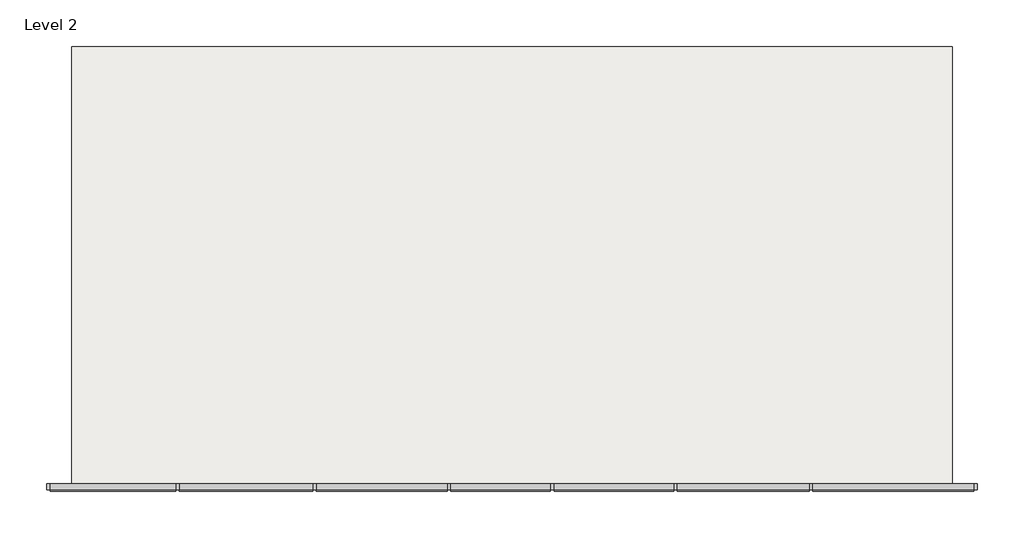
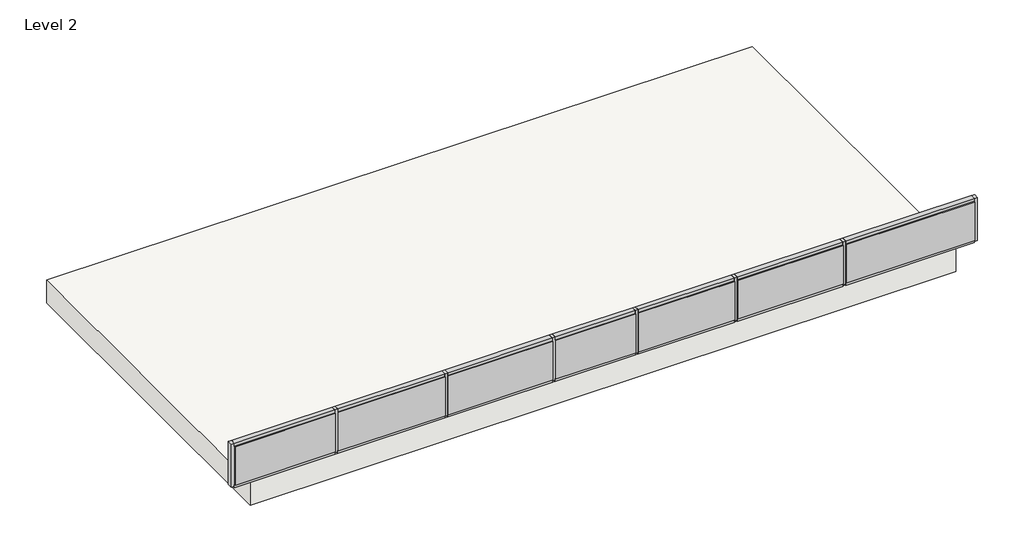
# One storey: 22 members, 7 plates, 1 slab.
"""IFC4 building model written with IfcOpenShell, lengths in millimetres."""

from ifc_helpers import new_model, si_unit, frame, origin, place, context, project, spatial, polyline, outline, extrude, transform, mapped, element, save
from components import member_81ac959f, member_ceac087d, member_30a30662, member_d2fca8fe, member_1e49c14f, member_4dc6d254, member_d2efc580, member_e0b1815d, member_3bdf2bed, member_e7d80e20, member_ce78e4f5, member_0df8127f, member_4764b96e, member_328ab8e7, member_a4666cf0, member_f6a0a9c4, system_panel_glazed_0956ccd0, system_panel_glazed_17b259f3, system_panel_glazed_22e72e10, system_panel_glazed_2f6f4404, system_panel_glazed_8692a983, system_panel_glazed_5eb8656d, system_panel_glazed_683c37fb

model = new_model("IFC4")

# Units and contexts
model_context = context("Model", 3, world=origin())
ifc_project = project(units=[si_unit("LENGTHUNIT", "METRE", prefix="MILLI")], contexts=[model_context])

# Site, building, storey
site = spatial("IfcSite", under=ifc_project)
building = spatial("IfcBuilding", under=site)
storey = spatial("IfcBuildingStorey", under=building, Name="Level 2", Elevation=3048.0)

# Members
placement = place(None, origin())
member_shape = member_81ac959f(model_context)
element("IfcMember", 1, ObjectType="Rectangular Mullion : 1.5\" x 2.5\" rectangular", at=placement, inside=storey, context=model_context, shape_type="MappedRepresentation", body=[
    mapped(member_shape, transform((1991.0440625, 909.2024759, 3393.8990634), x_axis=(0.0, 0.0, 1.0), y_axis=(0.0, 1.0, 0.0), z_axis=(-1.0, 0.0, 0.0))),
])
member_2_shape = member_ceac087d(model_context)
element("IfcMember", 2, ObjectType="Rectangular Mullion : 1.5\" x 2.5\" rectangular", at=placement, inside=storey, context=model_context, shape_type="MappedRepresentation", body=[
    mapped(member_2_shape, transform((953.3199377, 909.2024759, 3393.8990634), x_axis=(0.0, 0.0, 1.0), y_axis=(0.0, 1.0, 0.0), z_axis=(-0.9999999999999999, 0.0, 0.0))),
])
member_3_shape = member_30a30662(model_context)
element("IfcMember", 3, ObjectType="Rectangular Mullion : 1.5\" x 2.5\" rectangular", at=placement, inside=storey, context=model_context, shape_type="MappedRepresentation", body=[
    mapped(member_3_shape, transform((-395.6276941, 909.2024759, 3393.8990634), x_axis=(0.0, 0.0, 1.0), y_axis=(0.0, 1.0, 0.0), z_axis=(-1.0, 0.0, 0.0))),
])
member_4_shape = member_d2fca8fe(model_context)
element("IfcMember", 4, ObjectType="Rectangular Mullion : 1.5\" x 2.5\" rectangular", at=placement, inside=storey, context=model_context, shape_type="MappedRepresentation", body=[
    mapped(member_4_shape, transform((-1772.8050768, 909.2024759, 3393.8990634), x_axis=(0.0, 0.0, 1.0), y_axis=(0.0, 1.0, 0.0), z_axis=(-1.0, 0.0, 0.0))),
])
member_5_shape = member_1e49c14f(model_context)
element("IfcMember", 5, ObjectType="Rectangular Mullion : 1.5\" x 2.5\" rectangular", at=placement, inside=storey, context=model_context, shape_type="MappedRepresentation", body=[
    mapped(member_5_shape, transform((3229.504969, 909.2024759, 3393.8990634), x_axis=(0.0, 0.0, 1.0), y_axis=(0.0, 1.0, 0.0), z_axis=(-1.0, 0.0, 0.0))),
])
member_6_shape = member_4dc6d254(model_context)
element("IfcMember", 6, ObjectType="Rectangular Mullion : 1.5\" x 2.5\" rectangular", at=placement, inside=storey, context=model_context, shape_type="MappedRepresentation", body=[
    mapped(member_6_shape, transform((-3067.6441627, 909.2024759, 3393.8990634), x_axis=(0.0, 0.0, 1.0), y_axis=(0.0, 1.0, 0.0), z_axis=(-1.0, 0.0, 0.0))),
])
member_7_shape = member_d2efc580(model_context)
element("IfcMember", 7, ObjectType="Rectangular Mullion : 1.5\" x 2.5\" rectangular", at=placement, inside=storey, context=model_context, shape_type="MappedRepresentation", body=[
    mapped(member_7_shape, transform((4589.6711015, 909.2024759, 3393.8990634), x_axis=(0.0, 0.0, 1.0), y_axis=(0.0, 1.0, 0.0), z_axis=(-1.0, 0.0, 0.0))),
])
member_8_shape = member_e0b1815d(model_context)
element("IfcMember", 8, ObjectType="Rectangular Mullion : 1.5\" x 2.5\" rectangular", at=placement, inside=storey, context=model_context, shape_type="MappedRepresentation", body=[
    mapped(member_8_shape, transform((953.3199377, 909.2024759, 3962.4), x_axis=(0.0, 0.0, 1.0), y_axis=(0.0, 1.0, 0.0), z_axis=(-0.9999999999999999, 0.0, 0.0))),
])
member_9_shape = member_3bdf2bed(model_context)
element("IfcMember", 9, ObjectType="Rectangular Mullion : 1.5\" x 2.5\" rectangular", at=placement, inside=storey, context=model_context, shape_type="MappedRepresentation", body=[
    mapped(member_9_shape, transform((1991.0440625, 909.2024759, 3962.4), x_axis=(0.0, 0.0, 1.0), y_axis=(0.0, 1.0, 0.0), z_axis=(-0.9999999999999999, 0.0, 0.0))),
])
member_10_shape = member_e7d80e20(model_context)
element("IfcMember", 10, ObjectType="Rectangular Mullion : 1.5\" x 2.5\" rectangular", at=placement, inside=storey, context=model_context, shape_type="MappedRepresentation", body=[
    mapped(member_10_shape, transform((3229.504969, 909.2024759, 3962.4), x_axis=(0.0, 0.0, 1.0), y_axis=(0.0, 1.0, 0.0), z_axis=(-0.9999999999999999, 0.0, 0.0))),
])
member_11_shape = member_ce78e4f5(model_context)
element("IfcMember", 11, ObjectType="Rectangular Mullion : 1.5\" x 2.5\" rectangular", at=placement, inside=storey, context=model_context, shape_type="MappedRepresentation", body=[
    mapped(member_11_shape, transform((4589.6711015, 909.2024759, 3962.4), x_axis=(0.0, 0.0, 1.0), y_axis=(0.0, 1.0, 0.0), z_axis=(-0.9999999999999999, 0.0, 0.0))),
])
member_12_shape = member_0df8127f(model_context)
element("IfcMember", 12, ObjectType="Rectangular Mullion : 1.5\" x 2.5\" rectangular", at=placement, inside=storey, context=model_context, shape_type="MappedRepresentation", body=[
    mapped(member_12_shape, transform((4570.6211015, 909.2024759, 3393.8990634), x_axis=(-1.0, 0.0, 0.0), y_axis=(0.0, 1.0, 0.0), z_axis=(0.0, 0.0, -1.0))),
])
element("IfcMember", 13, ObjectType="Rectangular Mullion : 1.5\" x 2.5\" rectangular", at=placement, inside=storey, context=model_context, shape_type="MappedRepresentation", body=[
    mapped(member_12_shape, transform((934.2699377, 909.2024759, 3393.8990634), x_axis=(-1.0, 0.0, 0.0), y_axis=(0.0, 1.0, 0.0), z_axis=(0.0, 0.0, -1.0))),
])
element("IfcMember", 14, ObjectType="Rectangular Mullion : 1.5\" x 2.5\" rectangular", at=placement, inside=storey, context=model_context, shape_type="MappedRepresentation", body=[
    mapped(member_12_shape, transform((1971.9940625, 909.2024759, 3393.8990634), x_axis=(-1.0, 0.0, 0.0), y_axis=(0.0, 1.0, 0.0), z_axis=(0.0, 0.0, -1.0))),
])
element("IfcMember", 15, ObjectType="Rectangular Mullion : 1.5\" x 2.5\" rectangular", at=placement, inside=storey, context=model_context, shape_type="MappedRepresentation", body=[
    mapped(member_12_shape, transform((3210.454969, 909.2024759, 3393.8990634), x_axis=(-1.0, 0.0, 0.0), y_axis=(0.0, 1.0, 0.0), z_axis=(0.0, 0.0, -1.0))),
])
element("IfcMember", 16, ObjectType="Rectangular Mullion : 1.5\" x 2.5\" rectangular", at=placement, inside=storey, context=model_context, shape_type="MappedRepresentation", body=[
    mapped(member_12_shape, transform((-1791.8550768, 909.2024759, 3393.8990634), x_axis=(-1.0, 0.0, 0.0), y_axis=(0.0, 1.0, 0.0), z_axis=(0.0, 0.0, -1.0))),
])
element("IfcMember", 17, ObjectType="Rectangular Mullion : 1.5\" x 2.5\" rectangular", at=placement, inside=storey, context=model_context, shape_type="MappedRepresentation", body=[
    mapped(member_12_shape, transform((-414.6776941, 909.2024759, 3393.8990634), x_axis=(-1.0, 0.0, 0.0), y_axis=(0.0, 1.0, 0.0), z_axis=(0.0, 0.0, -1.0))),
])
member_13_shape = member_4764b96e(model_context)
element("IfcMember", 18, ObjectType="Rectangular Mullion : 1.5\" x 2.5\" rectangular", at=placement, inside=storey, context=model_context, shape_type="MappedRepresentation", body=[
    mapped(member_13_shape, transform((6241.4558373, 909.2024759, 3962.4), x_axis=(1.0, 0.0, 0.0), y_axis=(0.0, 1.0, 0.0), z_axis=(0.0, 0.0, 1.0))),
])
member_14_shape = member_328ab8e7(model_context)
element("IfcMember", 19, ObjectType="Rectangular Mullion : 1.5\" x 2.5\" rectangular", at=placement, inside=storey, context=model_context, shape_type="MappedRepresentation", body=[
    mapped(member_14_shape, transform((-3067.6441627, 909.2024759, 3962.4), x_axis=(0.0, 0.0, 1.0), y_axis=(0.0, 1.0, 0.0), z_axis=(-0.9999999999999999, 0.0, 0.0))),
])
element("IfcMember", 20, ObjectType="Rectangular Mullion : 1.5\" x 2.5\" rectangular", at=placement, inside=storey, context=model_context, shape_type="MappedRepresentation", body=[
    mapped(member_13_shape, transform((-3105.7441627, 909.2024759, 3393.8990634), x_axis=(-1.0, 0.0, 0.0), y_axis=(0.0, 1.0, 0.0), z_axis=(0.0, 0.0, -1.0))),
])
member_15_shape = member_a4666cf0(model_context)
element("IfcMember", 21, ObjectType="Rectangular Mullion : 1.5\" x 2.5\" rectangular", at=placement, inside=storey, context=model_context, shape_type="MappedRepresentation", body=[
    mapped(member_15_shape, transform((-1772.8050768, 909.2024759, 3962.4), x_axis=(0.0, 0.0, 1.0), y_axis=(0.0, 1.0, 0.0), z_axis=(-0.9999999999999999, 0.0, 0.0))),
])
member_16_shape = member_f6a0a9c4(model_context)
element("IfcMember", 22, ObjectType="Rectangular Mullion : 1.5\" x 2.5\" rectangular", at=placement, inside=storey, context=model_context, shape_type="MappedRepresentation", body=[
    mapped(member_16_shape, transform((-395.6276941, 909.2024759, 3962.4), x_axis=(0.0, 0.0, 1.0), y_axis=(0.0, 1.0, 0.0), z_axis=(-0.9999999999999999, 0.0, 0.0))),
])

# Plates
system_panel_glazed_shape = system_panel_glazed_0956ccd0(model_context)
element("IfcPlate", 23, ObjectType="System Panel : Glazed", at=placement, inside=storey, context=model_context, shape_type="MappedRepresentation", body=[
    mapped(system_panel_glazed_shape, transform((5396.5134694, 909.2024759, 3412.9490634), x_axis=(-1.0, 0.0, 0.0), y_axis=(0.0, -1.0, 0.0), z_axis=(0.0, 0.0, 1.0))),
])
system_panel_glazed_2_shape = system_panel_glazed_17b259f3(model_context)
element("IfcPlate", 24, ObjectType="System Panel : Glazed", at=placement, inside=storey, context=model_context, shape_type="MappedRepresentation", body=[
    mapped(system_panel_glazed_2_shape, transform((-2439.2746198, 909.2024759, 3412.9490634), x_axis=(-1.0, 0.0, 0.0), y_axis=(0.0, -1.0, 0.0), z_axis=(0.0, 0.0, 1.0))),
])
system_panel_glazed_3_shape = system_panel_glazed_22e72e10(model_context)
element("IfcPlate", 25, ObjectType="System Panel : Glazed", at=placement, inside=storey, context=model_context, shape_type="MappedRepresentation", body=[
    mapped(system_panel_glazed_3_shape, transform((-1103.2663854, 909.2024759, 3412.9490634), x_axis=(-1.0, 0.0, 0.0), y_axis=(0.0, -1.0, 0.0), z_axis=(0.0, 0.0, 1.0))),
])
system_panel_glazed_4_shape = system_panel_glazed_2f6f4404(model_context)
element("IfcPlate", 26, ObjectType="System Panel : Glazed", at=placement, inside=storey, context=model_context, shape_type="MappedRepresentation", body=[
    mapped(system_panel_glazed_4_shape, transform((259.7961218, 909.2024759, 3412.9490634), x_axis=(-1.0, 0.0, 0.0), y_axis=(0.0, -1.0, 0.0), z_axis=(0.0, 0.0, 1.0))),
])
system_panel_glazed_5_shape = system_panel_glazed_8692a983(model_context)
element("IfcPlate", 27, ObjectType="System Panel : Glazed", at=placement, inside=storey, context=model_context, shape_type="MappedRepresentation", body=[
    mapped(system_panel_glazed_5_shape, transform((1453.1320001, 909.2024759, 3412.9490634), x_axis=(-1.0, 0.0, 0.0), y_axis=(0.0, -1.0, 0.0), z_axis=(0.0, 0.0, 1.0))),
])
system_panel_glazed_6_shape = system_panel_glazed_5eb8656d(model_context)
element("IfcPlate", 28, ObjectType="System Panel : Glazed", at=placement, inside=storey, context=model_context, shape_type="MappedRepresentation", body=[
    mapped(system_panel_glazed_6_shape, transform((2591.2245158, 909.2024759, 3412.9490634), x_axis=(-1.0, 0.0, 0.0), y_axis=(0.0, -1.0, 0.0), z_axis=(0.0, 0.0, 1.0))),
])
system_panel_glazed_7_shape = system_panel_glazed_683c37fb(model_context)
element("IfcPlate", 29, ObjectType="System Panel : Glazed", at=placement, inside=storey, context=model_context, shape_type="MappedRepresentation", body=[
    mapped(system_panel_glazed_7_shape, transform((3890.5380353, 909.2024759, 3412.9490634), x_axis=(-1.0, 0.0, 0.0), y_axis=(0.0, -1.0, 0.0), z_axis=(0.0, 0.0, 1.0))),
])

# Slab
element("IfcSlab", 30, ObjectType="Generic - 12\"", at=placement, inside=storey, context=model_context, shape_type="SweptSolid", body=[
    extrude(outline(polyline([(5987.4558373, 909.2024759), (-2851.7441627, 909.2024759), (-2851.7441627, 5328.8024759), (5987.4558373, 5328.8024759), (5987.4558373, 909.2024759)])), frame((0.0, 0.0, 3048.0), z_axis=(0.0, 0.0, 1.0), x_axis=(1.0, 0.0, 0.0)), (0.0, 0.0, 1.0), 304.8),
])

save(model, "model.ifc")
